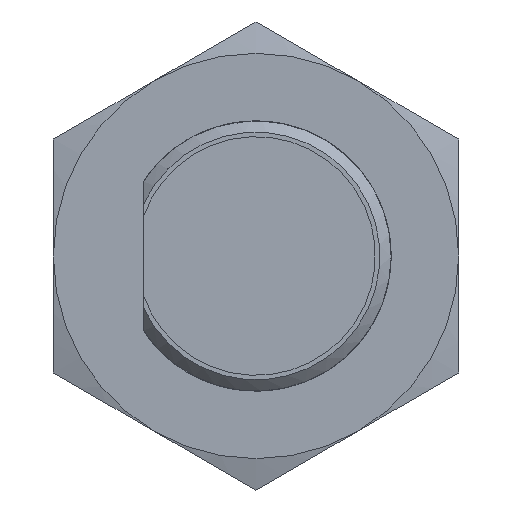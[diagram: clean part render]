
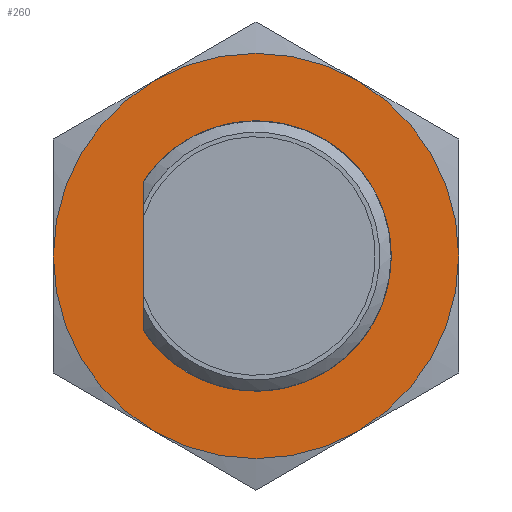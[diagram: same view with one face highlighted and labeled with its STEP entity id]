
A CAD part, front view. The second image highlights one B-rep face of the part: STEP entity #260.
In plain terms, the highlighted planar face has unit normal (0, -1, 0).
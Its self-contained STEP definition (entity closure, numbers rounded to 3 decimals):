
#107=PLANE('',#2360);
#260=ADVANCED_FACE('',(#429),#107,.T.);
#429=FACE_OUTER_BOUND('',#557,.T.);
#557=EDGE_LOOP('',(#1427,#1428,#1429,#1430,#1431,#1432));
#783=CIRCLE('',#2346,9.);
#784=CIRCLE('',#2348,9.);
#785=CIRCLE('',#2350,9.);
#786=CIRCLE('',#2352,9.);
#787=CIRCLE('',#2354,9.);
#789=CIRCLE('',#2359,9.);
#1427=ORIENTED_EDGE('',*,*,#2007,.T.);
#1428=ORIENTED_EDGE('',*,*,#2023,.T.);
#1429=ORIENTED_EDGE('',*,*,#2018,.T.);
#1430=ORIENTED_EDGE('',*,*,#2015,.T.);
#1431=ORIENTED_EDGE('',*,*,#2012,.T.);
#1432=ORIENTED_EDGE('',*,*,#2009,.T.);
#1678=VERTEX_POINT('',#30690);
#1680=VERTEX_POINT('',#30696);
#1682=VERTEX_POINT('',#30705);
#1684=VERTEX_POINT('',#30717);
#1686=VERTEX_POINT('',#30729);
#1688=VERTEX_POINT('',#30741);
#2007=EDGE_CURVE('',#1678,#1680,#783,.T.);
#2009=EDGE_CURVE('',#1682,#1678,#784,.T.);
#2012=EDGE_CURVE('',#1684,#1682,#785,.T.);
#2015=EDGE_CURVE('',#1686,#1684,#786,.T.);
#2018=EDGE_CURVE('',#1688,#1686,#787,.T.);
#2023=EDGE_CURVE('',#1680,#1688,#789,.T.);
#2346=AXIS2_PLACEMENT_3D('',#30697,#2665,#2666);
#2348=AXIS2_PLACEMENT_3D('',#30704,#2669,#2670);
#2350=AXIS2_PLACEMENT_3D('',#30716,#2673,#2674);
#2352=AXIS2_PLACEMENT_3D('',#30728,#2677,#2678);
#2354=AXIS2_PLACEMENT_3D('',#30740,#2681,#2682);
#2359=AXIS2_PLACEMENT_3D('',#30759,#2691,#2692);
#2360=AXIS2_PLACEMENT_3D('',#30760,#2693,#2694);
#2665=DIRECTION('',(0.,-1.,0.));
#2666=DIRECTION('',(0.5,0.,-0.866));
#2669=DIRECTION('',(0.,-1.,0.));
#2670=DIRECTION('',(0.5,0.,-0.866));
#2673=DIRECTION('',(0.,-1.,0.));
#2674=DIRECTION('',(0.5,0.,-0.866));
#2677=DIRECTION('',(0.,-1.,0.));
#2678=DIRECTION('',(0.5,0.,-0.866));
#2681=DIRECTION('',(0.,-1.,0.));
#2682=DIRECTION('',(0.5,0.,-0.866));
#2691=DIRECTION('',(0.,-1.,0.));
#2692=DIRECTION('',(0.5,0.,-0.866));
#2693=DIRECTION('',(0.,-1.,0.));
#2694=DIRECTION('',(0.5,0.,-0.866));
#30690=CARTESIAN_POINT('',(4.5,7.,-7.794));
#30696=CARTESIAN_POINT('',(9.,7.,0.));
#30697=CARTESIAN_POINT('',(0.,7.,0.));
#30704=CARTESIAN_POINT('',(0.,7.,0.));
#30705=CARTESIAN_POINT('',(-4.5,7.,-7.794));
#30716=CARTESIAN_POINT('',(0.,7.,0.));
#30717=CARTESIAN_POINT('',(-9.,7.,0.));
#30728=CARTESIAN_POINT('',(0.,7.,0.));
#30729=CARTESIAN_POINT('',(-4.5,7.,7.794));
#30740=CARTESIAN_POINT('',(0.,7.,0.));
#30741=CARTESIAN_POINT('',(4.5,7.,7.794));
#30759=CARTESIAN_POINT('',(0.,7.,0.));
#30760=CARTESIAN_POINT('',(5.149,7.,2.973));
